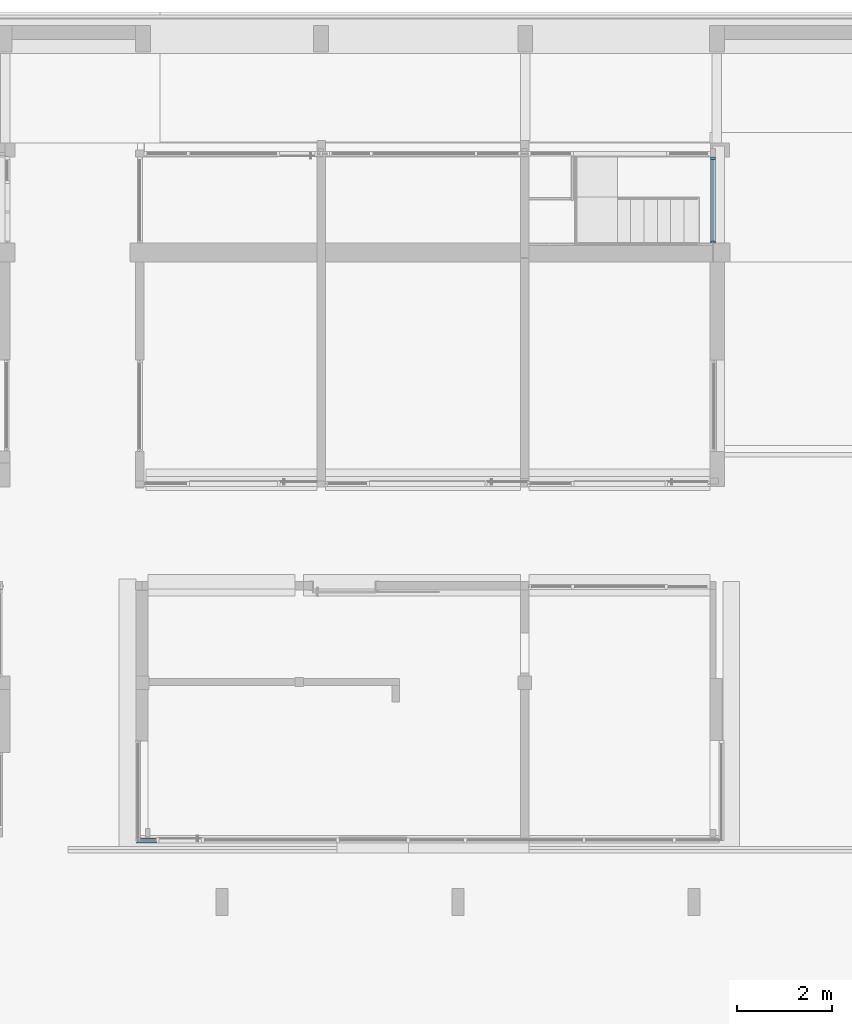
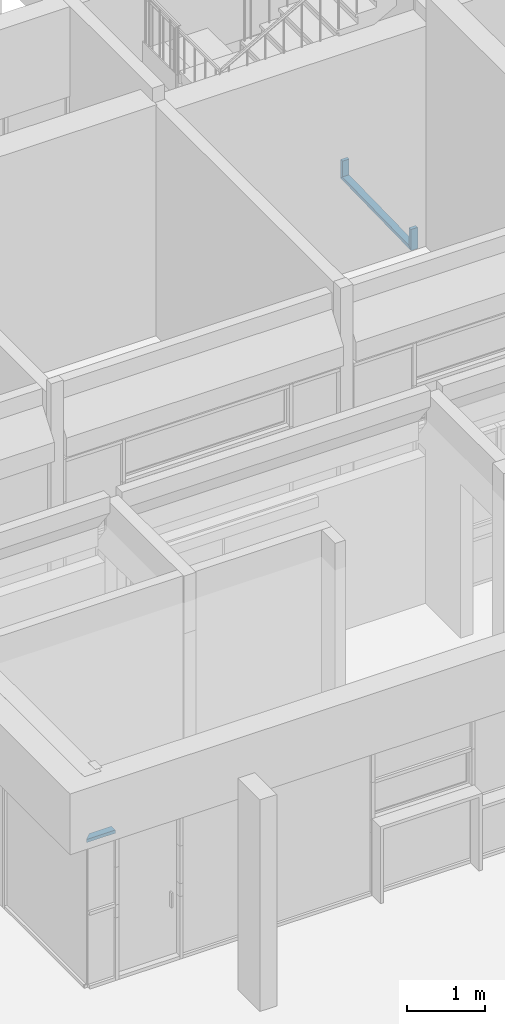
# One storey, part 76 of 117: 4 members, 2 elements without a shape of their own.
"""IFC4 building model written with IfcOpenShell, lengths in metres."""

import ifcopenshell
import ifcopenshell.guid

model = None  # the IFC model being written
_history = None  # IfcOwnerHistory: only IFC2X3 demands one
_inside = {}  # id of a spatial element -> (the spatial element, [elements in it])
_under = {}  # id of a project, library or spatial element -> (it, [spatial elements below it])
_declared = {}  # id of a project -> (the project, [libraries it declares])
_typed = {}  # id of a type object -> (the type object, [elements of that type])
_made_of = {}  # id of a material, layer set ... -> (it, [elements and type objects made of it])


def new_model(schema):
    """Start an empty IFC model of exactly this schema.

    Asked for "IFC4X3", IfcOpenShell would pick the latest addendum, in which some entities
    have other attributes; the version numbers below select the first issue.
    IFC2X3 requires an IfcOwnerHistory on every rooted entity: one is made here for all.
    """
    global model, _history
    if schema == "IFC4X3":
        model = ifcopenshell.file(schema_version=(4, 3, 0, 0))
    else:
        model = ifcopenshell.file(schema=schema)
    _inside.clear()
    _under.clear()
    _declared.clear()
    _typed.clear()
    _made_of.clear()
    _history = None
    if model.schema == "IFC2X3":
        org = make("IfcOrganization", Name="unknown")
        user = make(
            "IfcPersonAndOrganization",
            ThePerson=make("IfcPerson", FamilyName="unknown"),
            TheOrganization=org,
        )
        app = make(
            "IfcApplication",
            ApplicationDeveloper=org,
            Version="unknown",
            ApplicationFullName="unknown",
            ApplicationIdentifier="unknown",
        )
        _history = make(
            "IfcOwnerHistory",
            OwningUser=user,
            OwningApplication=app,
            ChangeAction="ADDED",
            CreationDate=0,
        )
    return model


def make(cls, **values):
    """One entity of the class cls with the attributes given. An attribute that is None is left unset."""
    return model.create_entity(
        cls, **{name: value for name, value in values.items() if value is not None}
    )


def entity(cls, *values):
    """Any entity or typed value of the class cls, its attributes in the order of the schema. None: left unset."""
    e = model.create_entity(cls)
    for i, value in enumerate(values):
        if value is not None:
            e[i] = value
    return e


def rooted(cls, **values):
    """An entity with a GlobalId (a new one), such as an element, a storey or a relation."""
    return make(cls, GlobalId=ifcopenshell.guid.new(), OwnerHistory=_history, **values)


def si_unit(unit_type, name, prefix=None):
    """IfcSIUnit, for example si_unit("LENGTHUNIT", "METRE", prefix="MILLI")."""
    return make("IfcSIUnit", UnitType=unit_type, Prefix=prefix, Name=name)


def converted_unit(unit_type, name, factor, base, dimensions=None, offset=None):
    """IfcConversionBasedUnit, such as the inch: factor (a typed value) times the base unit."""
    return make(
        "IfcConversionBasedUnit"
        if offset is None
        else "IfcConversionBasedUnitWithOffset",
        ConversionOffset=offset,
        Dimensions=None
        if dimensions is None
        else entity("IfcDimensionalExponents", *dimensions),
        UnitType=unit_type,
        Name=name,
        ConversionFactor=make(
            "IfcMeasureWithUnit", ValueComponent=factor, UnitComponent=base
        ),
    )


def derived_unit(unit_type, elements):
    """IfcDerivedUnit: a product of units, each with its exponent."""
    return make(
        "IfcDerivedUnit",
        Elements=[
            make("IfcDerivedUnitElement", Unit=unit, Exponent=power)
            for unit, power in elements
        ],
        UnitType=unit_type,
    )


def assignment(units):
    """IfcUnitAssignment: the units of a project."""
    return None if units is None else make("IfcUnitAssignment", Units=units)


def point(xyz):
    """IfcCartesianPoint."""
    return None if xyz is None else make("IfcCartesianPoint", Coordinates=xyz)


def direction(xyz):
    """IfcDirection."""
    return None if xyz is None else make("IfcDirection", DirectionRatios=xyz)


def frame(location, z_axis=None, x_axis=None):
    """IfcAxis2Placement3D, a coordinate frame: its origin and axes. An axis left out is left unset."""
    return make(
        "IfcAxis2Placement3D",
        Location=point(location),
        Axis=direction(z_axis),
        RefDirection=direction(x_axis),
    )


def origin():
    """The frame at (0, 0, 0) with its axes left unset."""
    return frame((0.0, 0.0, 0.0))


def place(relative_to, where):
    """IfcLocalPlacement: puts the frame where relative to a parent placement (None: the world)."""
    return make(
        "IfcLocalPlacement", PlacementRelTo=relative_to, RelativePlacement=where
    )


def context(
    kind, dimensions, precision=None, world=None, true_north=None, identifier=None
):
    """IfcGeometricRepresentationContext, for example the 3D "Model" context."""
    return make(
        "IfcGeometricRepresentationContext",
        ContextIdentifier=identifier,
        ContextType=kind,
        CoordinateSpaceDimension=dimensions,
        Precision=precision,
        WorldCoordinateSystem=world,
        TrueNorth=true_north,
    )


def subcontext(parent, identifier, kind, view, scale=None):
    """IfcGeometricRepresentationSubContext, for example "Body" below "Model"."""
    return make(
        "IfcGeometricRepresentationSubContext",
        ContextIdentifier=identifier,
        ContextType=kind,
        ParentContext=parent,
        TargetScale=scale,
        TargetView=view,
    )


def project(units=None, contexts=None):
    """IfcProject with its units and contexts."""
    return rooted(
        "IfcProject",
        Name="project",
        RepresentationContexts=contexts,
        UnitsInContext=assignment(units),
    )


def spatial(cls, under=None, at=None, **own):
    """A site, building, storey or space (cls), placed at a placement, below another one or the project."""
    s = rooted(cls, ObjectPlacement=at, **own)
    if under is not None:
        _under.setdefault(under.id(), (under, []))[1].append(s)
    return s


def point_list(points):
    """IfcCartesianPointList2D or 3D."""
    cls = (
        "IfcCartesianPointList2D" if len(points[0]) == 2 else "IfcCartesianPointList3D"
    )
    return make(cls, CoordList=points)


def polygons(points, faces, closed=None, point_numbers=None):
    """IfcPolygonalFaceSet: a face is its outer loop, then its inner loops; points numbered from 1."""
    made = []
    for loops in faces:
        if len(loops) == 1:
            made.append(make("IfcIndexedPolygonalFace", CoordIndex=loops[0]))
        else:
            made.append(
                make(
                    "IfcIndexedPolygonalFaceWithVoids",
                    CoordIndex=loops[0],
                    InnerCoordIndices=loops[1:],
                )
            )
    return make(
        "IfcPolygonalFaceSet",
        Coordinates=point_list(points),
        Closed=closed,
        Faces=made,
        PnIndex=point_numbers,
    )


def shape(context_of_items, identifier, shape_type, items):
    """IfcShapeRepresentation: the items that make up one representation, for example the "Body"."""
    return make(
        "IfcShapeRepresentation",
        ContextOfItems=context_of_items,
        RepresentationIdentifier=identifier,
        RepresentationType=shape_type,
        Items=items,
    )


def source(mapping_origin, context_of_items, identifier, shape_type, items):
    """IfcRepresentationMap: a shape defined once, which mapped items show again and again."""
    return make(
        "IfcRepresentationMap",
        MappingOrigin=mapping_origin,
        MappedRepresentation=shape(context_of_items, identifier, shape_type, items),
    )


def transform(
    local_origin,
    x_axis=None,
    y_axis=None,
    z_axis=None,
    scale=None,
    scale2=None,
    scale3=None,
    uniform=True,
):
    """IfcCartesianTransformationOperator3D, or its non-uniform kind. x_axis, y_axis, z_axis: its Axis1, 2, 3."""
    if uniform:
        return make(
            "IfcCartesianTransformationOperator3D",
            Axis1=direction(x_axis),
            Axis2=direction(y_axis),
            LocalOrigin=point(local_origin),
            Scale=scale,
            Axis3=direction(z_axis),
        )
    return make(
        "IfcCartesianTransformationOperator3DnonUniform",
        Axis1=direction(x_axis),
        Axis2=direction(y_axis),
        LocalOrigin=point(local_origin),
        Scale=scale,
        Axis3=direction(z_axis),
        Scale2=scale2,
        Scale3=scale3,
    )


def mapped(mapping_source, mapping_target):
    """IfcMappedItem: shows the shape of a source again, moved by a transform."""
    return make(
        "IfcMappedItem", MappingSource=mapping_source, MappingTarget=mapping_target
    )


def material(Name=None, Category=None):
    """IfcMaterial."""
    return make("IfcMaterial", Name=Name, Category=Category)


def made_of(thing, what):
    """Note that an element or type object is made of a material, layer set ...; save() writes the relation."""
    if what is not None:
        _made_of.setdefault(what.id(), (what, []))[1].append(thing)
    return thing


def type_object(cls, material=None, **own):
    """A type object (cls), such as IfcWallType, which elements share."""
    return made_of(rooted(cls, **own), material)


def type_shapes(of_type, sources):
    """Give a type object the sources (RepresentationMaps) that its elements show as mapped items."""
    of_type.RepresentationMaps = sources


def element(
    cls,
    number,
    at=None,
    inside=None,
    cuts=None,
    type_object=None,
    material=None,
    context=None,
    identifier="Body",
    shape_type=None,
    held_by="IfcProductDefinitionShape",
    body=None,
    shapes=None,
    **own,
):
    """One element of the class cls, such as IfcWall. Its Tag is "e" and its number.

    at: its placement. inside: the storey or other place that contains it. cuts: it is an
    opening in that element (IfcRelVoidsElement). A single representation is given by context,
    identifier, shape_type and body (its items); several are given by shapes. held_by: the class
    of the entity that holds the representations. save() writes the other relations.
    """
    e = rooted(cls, Tag="e%d" % number, ObjectPlacement=at, **own)
    if body is not None:
        shapes = [shape(context, identifier, shape_type, body)]
    if shapes is not None:
        e.Representation = make(held_by, Representations=shapes)
    if inside is not None:
        _inside.setdefault(inside.id(), (inside, []))[1].append(e)
    if cuts is not None:
        rooted(
            "IfcRelVoidsElement", RelatingBuildingElement=cuts, RelatedOpeningElement=e
        )
    if type_object is not None:
        _typed.setdefault(type_object.id(), (type_object, []))[1].append(e)
    return made_of(e, material)


def aggregate(whole, parts):
    """IfcRelAggregates: a whole, such as a stair, and the parts it consists of."""
    return rooted("IfcRelAggregates", RelatingObject=whole, RelatedObjects=parts)


def save(model, path):
    """Write the relations noted so far, then the file.

    IfcRelAggregates (storeys below a building ...), IfcRelContainedInSpatialStructure (elements
    in a storey), IfcRelDefinesByType, IfcRelAssociatesMaterial and IfcRelDeclares: one each for
    every whole, place, type object, material and project.
    """
    for whole, parts in _under.values():
        aggregate(whole, parts)
    for where, things in _inside.values():
        rooted(
            "IfcRelContainedInSpatialStructure",
            RelatedElements=things,
            RelatingStructure=where,
        )
    for kind, things in _typed.values():
        rooted("IfcRelDefinesByType", RelatedObjects=things, RelatingType=kind)
    for what, things in _made_of.values():
        rooted("IfcRelAssociatesMaterial", RelatedObjects=things, RelatingMaterial=what)
    for by, libraries in _declared.values():
        rooted("IfcRelDeclares", RelatingContext=by, RelatedDefinitions=libraries)
    model.write(path)


model = new_model("IFC4")

# Units and contexts
model_context = context("Model", 3, precision=1e-05, world=origin(), true_north=direction((6.123031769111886e-17, 1.0)))
body_context = subcontext(model_context, "Body", "Model", "MODEL_VIEW")
ifc_project = project(units=[si_unit("LENGTHUNIT", "METRE"), si_unit("AREAUNIT", "SQUARE_METRE"), si_unit("VOLUMEUNIT", "CUBIC_METRE"), converted_unit("PLANEANGLEUNIT", "DEGREE", entity("IfcRatioMeasure", 0.017453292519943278), si_unit("PLANEANGLEUNIT", "RADIAN"), dimensions=[0, 0, 0, 0, 0, 0, 0]), si_unit("MASSUNIT", "GRAM", prefix="KILO"), derived_unit("MASSDENSITYUNIT", [(si_unit("MASSUNIT", "GRAM", prefix="KILO"), 1), (si_unit("LENGTHUNIT", "METRE"), -3)]), derived_unit("MOMENTOFINERTIAUNIT", [(si_unit("LENGTHUNIT", "METRE"), 4)]), si_unit("TIMEUNIT", "SECOND"), si_unit("FREQUENCYUNIT", "HERTZ"), si_unit("THERMODYNAMICTEMPERATUREUNIT", "DEGREE_CELSIUS"), derived_unit("THERMALTRANSMITTANCEUNIT", [(si_unit("MASSUNIT", "GRAM", prefix="KILO"), 1), (si_unit("THERMODYNAMICTEMPERATUREUNIT", "KELVIN"), -1), (si_unit("TIMEUNIT", "SECOND"), -3)]), derived_unit("VOLUMETRICFLOWRATEUNIT", [(si_unit("LENGTHUNIT", "METRE"), 3), (si_unit("TIMEUNIT", "SECOND"), -1)]), derived_unit("MASSFLOWRATEUNIT", [(si_unit("MASSUNIT", "GRAM", prefix="KILO"), 1), (si_unit("TIMEUNIT", "SECOND"), -1)]), derived_unit("ROTATIONALFREQUENCYUNIT", [(si_unit("TIMEUNIT", "SECOND"), -1)]), si_unit("ELECTRICCURRENTUNIT", "AMPERE"), si_unit("ELECTRICVOLTAGEUNIT", "VOLT"), si_unit("POWERUNIT", "WATT"), si_unit("FORCEUNIT", "NEWTON", prefix="KILO"), si_unit("ILLUMINANCEUNIT", "LUX"), si_unit("LUMINOUSFLUXUNIT", "LUMEN"), si_unit("LUMINOUSINTENSITYUNIT", "CANDELA"), derived_unit("USERDEFINED", [(si_unit("MASSUNIT", "GRAM", prefix="KILO"), -1), (si_unit("LENGTHUNIT", "METRE"), -2), (si_unit("TIMEUNIT", "SECOND"), 3), (si_unit("LUMINOUSFLUXUNIT", "LUMEN"), 1)]), derived_unit("SOUNDPOWERUNIT", [(si_unit("MASSUNIT", "GRAM", prefix="KILO"), 1), (si_unit("LENGTHUNIT", "METRE"), 2), (si_unit("TIMEUNIT", "SECOND"), -3)]), derived_unit("SOUNDPRESSUREUNIT", [(si_unit("MASSUNIT", "GRAM", prefix="KILO"), 1), (si_unit("LENGTHUNIT", "METRE"), -1), (si_unit("TIMEUNIT", "SECOND"), -2)]), derived_unit("LINEARVELOCITYUNIT", [(si_unit("LENGTHUNIT", "METRE"), 1), (si_unit("TIMEUNIT", "SECOND"), -1)]), si_unit("PRESSUREUNIT", "PASCAL"), derived_unit("USERDEFINED", [(si_unit("LENGTHUNIT", "METRE"), -2), (si_unit("MASSUNIT", "GRAM", prefix="KILO"), 1), (si_unit("TIMEUNIT", "SECOND"), -2)]), derived_unit("LINEARFORCEUNIT", [(si_unit("MASSUNIT", "GRAM", prefix="KILO"), 1), (si_unit("LENGTHUNIT", "METRE"), 1), (si_unit("TIMEUNIT", "SECOND"), -2), (si_unit("LENGTHUNIT", "METRE"), -1)]), derived_unit("PLANARFORCEUNIT", [(si_unit("MASSUNIT", "GRAM", prefix="KILO"), 1), (si_unit("LENGTHUNIT", "METRE"), 1), (si_unit("TIMEUNIT", "SECOND"), -2), (si_unit("LENGTHUNIT", "METRE"), -2)])], contexts=[model_context])

# Site, building, storey
site_placement = place(None, origin())
site = spatial("IfcSite", under=ifc_project, at=site_placement, Name="Superficie", CompositionType="ELEMENT")
building_placement = place(site_placement, origin())
building = spatial("IfcBuilding", under=site, at=building_placement, CompositionType="ELEMENT")
storey_placement = place(building_placement, origin())
storey = spatial("IfcBuildingStorey", under=building, at=storey_placement, Name="Nivel 0", CompositionType="ELEMENT", Elevation=0.0)

# Curtain wall, members
curtain_wall_type = type_object("IfcCurtainWallType", Name="Muro cortina:Muro cortina - simple", PredefinedType="NOTDEFINED")
curtain_wall_1_placement = place(storey_placement, origin())
curtain_wall_1 = element("IfcCurtainWall", 1, at=curtain_wall_1_placement, inside=storey, type_object=curtain_wall_type, Name="Muro cortina:Muro cortina - simple", ObjectType="Muro cortina:Muro cortina - simple", PredefinedType="NOTDEFINED")
ifc_material = material(Name="<Unnamed>")
member_type_1 = type_object("IfcMemberType", Name="Montante rectangular:Montante rectangular - 5 x 10 cm", PredefinedType="MULLION", material=ifc_material)
shared_shape_1 = source(origin(), body_context, "Body", "Tessellation", [
    polygons([(0.0, -0.05, 0.025005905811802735), (-0.05, -0.05, -0.026092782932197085), (-0.05, -0.05, -1.731495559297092), (0.0, -0.05, -1.7804204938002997), (0.0, 0.05, 0.025005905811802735), (0.0, 0.049999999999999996, -1.7804204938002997), (-0.05, 0.049999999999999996, -0.026092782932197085), (-0.05, 0.049999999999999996, -1.731495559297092)], [[[1, 2, 3, 4]], [[5, 1, 4, 6]], [[7, 5, 6, 8]], [[2, 7, 8, 3]], [[2, 1, 5, 7]], [[3, 8, 6, 4]]], closed=True),
])
type_shapes(member_type_1, [shared_shape_1])
member_1_placement = place(curtain_wall_1_placement, frame((-3.3932009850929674, 10.790829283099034, -0.310870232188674), z_axis=(0.0, -0.9997638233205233, -0.021732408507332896), x_axis=(0.0, 0.021732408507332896, -0.9997638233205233)))
member_1 = element("IfcMember", 2, at=member_1_placement, type_object=member_type_1, material=ifc_material, Name="Montante rectangular:Montante rectangular - 5 x 10 cm", ObjectType="Montante rectangular:Montante rectangular - 5 x 10 cm", PredefinedType="MULLION", context=body_context, shape_type="MappedRepresentation", body=[
    mapped(shared_shape_1, transform((0.0, 0.0, 0.0), scale=1.0)),
])
member_type_2 = type_object("IfcMemberType", Name="Montante rectangular:Montante rectangular - 5 x 10 cm", PredefinedType="MULLION", material=ifc_material)
shared_shape_2 = source(origin(), body_context, "Body", "Tessellation", [
    polygons([(0.025, -0.05, -0.3308702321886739), (-0.025, -0.05, -0.3308702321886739), (-0.025, 0.05, -0.3308702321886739), (0.025, 0.05, -0.3308702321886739), (0.025, 0.05, -0.05055525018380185), (0.025, -0.05, -0.05055525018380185), (-0.025, 0.05, 0.0005434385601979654), (-0.025, -0.05, 0.0005434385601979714)], [[[1, 2, 3, 4]], [[5, 6, 1, 4]], [[7, 5, 4, 3]], [[8, 7, 3, 2]], [[6, 8, 2, 1]], [[6, 5, 7, 8]]], closed=True),
])
type_shapes(member_type_2, [shared_shape_2])
member_2_placement = place(curtain_wall_1_placement, frame((-3.3932009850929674, 10.790829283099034, -0.31087023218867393), z_axis=(0.0, 0.0, -1.0), x_axis=(0.0, 1.0, 0.0)))
member_2 = element("IfcMember", 3, at=member_2_placement, type_object=member_type_2, material=ifc_material, Name="Montante rectangular:Montante rectangular - 5 x 10 cm", ObjectType="Montante rectangular:Montante rectangular - 5 x 10 cm", PredefinedType="MULLION", context=body_context, shape_type="MappedRepresentation", body=[
    mapped(shared_shape_2, transform((0.0, 0.0, 0.0), scale=1.0)),
])
member_type_3 = type_object("IfcMemberType", Name="Montante rectangular:Montante rectangular - 5 x 10 cm", PredefinedType="MULLION", material=ifc_material)
shared_shape_3 = source(origin(), body_context, "Body", "Tessellation", [
    polygons([(0.0, -0.05, -0.2921774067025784), (-0.05, -0.05, -0.2921774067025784), (-0.05, 0.05, -0.2921774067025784), (0.0, 0.05, -0.2921774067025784), (0.0, 0.05, 4.340524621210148e-18), (0.0, -0.05, -4.340524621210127e-18), (-0.05, 0.05, -0.04892493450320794), (-0.05, -0.05, -0.04892493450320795)], [[[1, 2, 3, 4]], [[5, 6, 1, 4]], [[7, 5, 4, 3]], [[8, 7, 3, 2]], [[6, 8, 2, 1]], [[6, 5, 7, 8]]], closed=True),
])
type_shapes(member_type_3, [shared_shape_3])
member_3_placement = place(curtain_wall_1_placement, frame((-3.393200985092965, 12.570829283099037, -0.27217740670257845), z_axis=(0.0, 0.0, -1.0), x_axis=(0.0, 1.0, 0.0)))
member_3 = element("IfcMember", 4, at=member_3_placement, type_object=member_type_3, material=ifc_material, Name="Montante rectangular:Montante rectangular - 5 x 10 cm", ObjectType="Montante rectangular:Montante rectangular - 5 x 10 cm", PredefinedType="MULLION", context=body_context, shape_type="MappedRepresentation", body=[
    mapped(shared_shape_3, transform((0.0, 0.0, 0.0), scale=1.0)),
])
aggregate(curtain_wall_1, [member_1, member_2, member_3])

# Curtain wall, member
curtain_wall_2_placement = place(storey_placement, origin())
curtain_wall_2 = element("IfcCurtainWall", 5, at=curtain_wall_2_placement, inside=storey, type_object=curtain_wall_type, Name="Muro cortina:Muro cortina - simple", ObjectType="Muro cortina:Muro cortina - simple", PredefinedType="NOTDEFINED")
member_type_4 = type_object("IfcMemberType", Name="Montante rectangular:Montante rectangular - 5 x 10 cm", PredefinedType="MULLION", material=ifc_material)
shared_shape_4 = source(origin(), body_context, "Body", "Tessellation", [
    polygons([(0.0, 0.049999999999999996, -3.8492542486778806e-16), (-0.05, 0.049999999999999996, -3.8492542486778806e-16), (-0.05, -0.05, -3.8492542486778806e-16), (0.0, -0.05, -3.8492542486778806e-16), (0.0, 0.049999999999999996, -0.4300000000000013), (-0.05, 0.049999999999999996, -0.4300000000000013), (-0.05, -0.05, -0.3300000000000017), (0.0, -0.05, -0.3300000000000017)], [[[1, 2, 3, 4]], [[2, 1, 5, 6]], [[3, 2, 6, 7]], [[4, 3, 7, 8]], [[1, 4, 8, 5]], [[5, 8, 7, 6]]], closed=True),
])
type_shapes(member_type_4, [shared_shape_4])
member_4_placement = place(curtain_wall_2_placement, frame((-15.068200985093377, -1.7641707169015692, 2.35), z_axis=(1.0, 0.0, 0.0), x_axis=(0.0, 0.0, 1.0)))
member_4 = element("IfcMember", 6, at=member_4_placement, type_object=member_type_4, material=ifc_material, Name="Montante rectangular:Montante rectangular - 5 x 10 cm", ObjectType="Montante rectangular:Montante rectangular - 5 x 10 cm", PredefinedType="MULLION", context=body_context, shape_type="MappedRepresentation", body=[
    mapped(shared_shape_4, transform((0.0, 0.0, 0.0), scale=1.0)),
])
aggregate(curtain_wall_2, [member_4])

save(model, "model.ifc")
